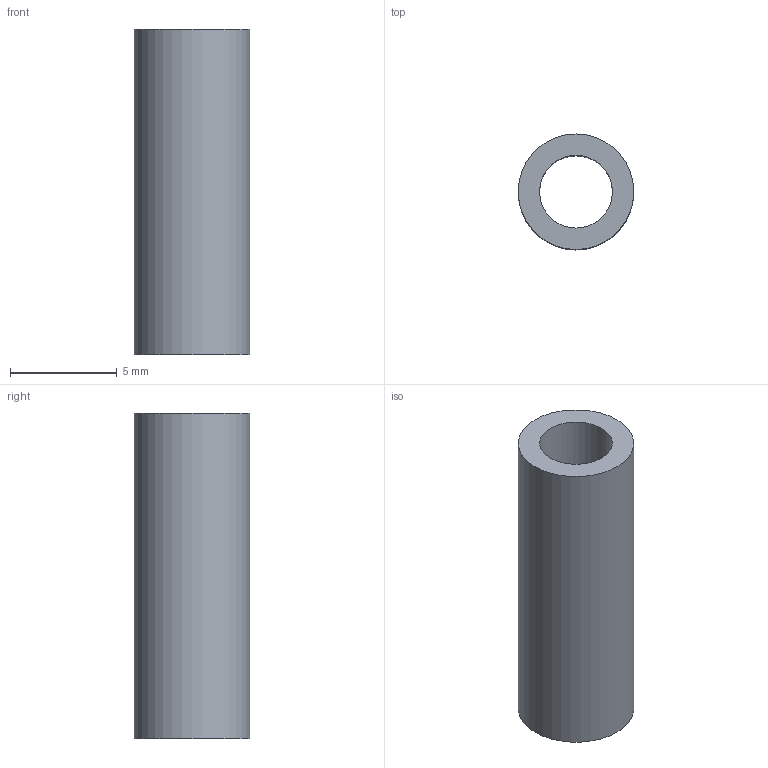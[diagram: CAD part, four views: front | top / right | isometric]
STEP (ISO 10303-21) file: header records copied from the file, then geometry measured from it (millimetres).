
FILE_DESCRIPTION(('Open CASCADE Model'),'2;1');
FILE_NAME('Open CASCADE Shape Model','2026-10-12T22:10:16',('Author'),( 'Open CASCADE'),'Open CASCADE STEP processor 7.9','Open CASCADE 7.9' ,'Unknown');
FILE_SCHEMA(('AUTOMOTIVE_DESIGN { 1 0 10303 214 1 1 1 1 }'));
Length unit declared in the file: millimetre
Products named in the file (1): Open CASCADE STEP translator 7.9 15
Bounding box: 5.4 x 5.4 x 15.2 mm (x, y, z)
Volume: 210.1 mm3; surface area: 447.9 mm2
Topology: 1 solids, 1 shells, 4 faces, 6 edges, 4 vertices
Faces by surface type: cylinder 2, plane 2
Full cylindrical faces by diameter (mm): 3.4 x1, 5.4 x1
Entity records: 186 total; most frequent: DIRECTION 32, CARTESIAN_POINT 27, ORIENTED_EDGE 12, PCURVE 12, DEFINITIONAL_REPRESENTATION 12, LINE 10, VECTOR 10, AXIS2_PLACEMENT_3D 9
